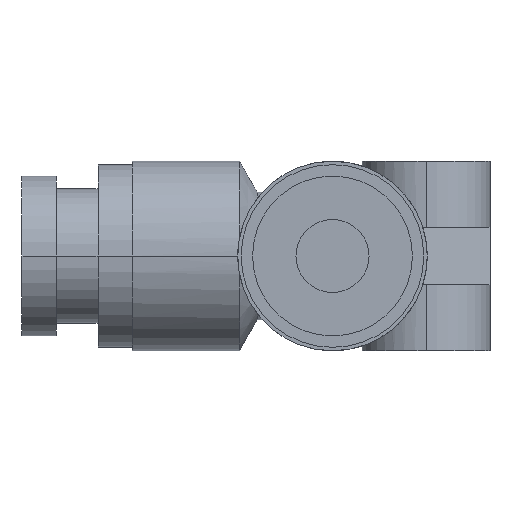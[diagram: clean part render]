
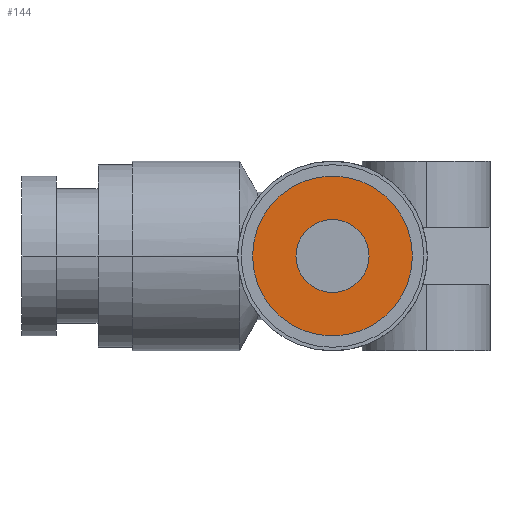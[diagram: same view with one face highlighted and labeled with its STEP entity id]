
A CAD part, left-side view. The second image highlights one B-rep face of the part: STEP entity #144.
In plain terms, the highlighted planar face has unit normal (-1, 0, 0).
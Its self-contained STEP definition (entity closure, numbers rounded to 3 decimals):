
#144 = ADVANCED_FACE( '', ( #297, #298 ), #299, .T. );
#297 = FACE_BOUND( '', #451, .T. );
#298 = FACE_OUTER_BOUND( '', #452, .T. );
#299 = PLANE( '', #453 );
#451 = EDGE_LOOP( '', ( #989, #990 ) );
#452 = EDGE_LOOP( '', ( #991, #992 ) );
#453 = AXIS2_PLACEMENT_3D( '', #993, #994, #995 );
#989 = ORIENTED_EDGE( '', *, *, #1097, .T. );
#990 = ORIENTED_EDGE( '', *, *, #1093, .T. );
#991 = ORIENTED_EDGE( '', *, *, #999, .T. );
#992 = ORIENTED_EDGE( '', *, *, #1161, .T. );
#993 = CARTESIAN_POINT( '', ( -13.6, 1.75, 0. ) );
#994 = DIRECTION( '', ( -1., 0., 0. ) );
#995 = DIRECTION( '', ( 0., 1., 0. ) );
#999 = EDGE_CURVE( '', #1163, #1167, #1169, .T. );
#1093 = EDGE_CURVE( '', #1348, #1345, #1349, .T. );
#1097 = EDGE_CURVE( '', #1345, #1348, #1354, .T. );
#1161 = EDGE_CURVE( '', #1167, #1163, #1433, .T. );
#1163 = VERTEX_POINT( '', #1435 );
#1167 = VERTEX_POINT( '', #1440 );
#1169 = CIRCLE( '', #1443, 3.5 );
#1345 = VERTEX_POINT( '', #1732 );
#1348 = VERTEX_POINT( '', #1736 );
#1349 = CIRCLE( '', #1737, 1.6 );
#1354 = CIRCLE( '', #1743, 1.6 );
#1433 = CIRCLE( '', #1905, 3.5 );
#1435 = CARTESIAN_POINT( '', ( -13.6, 3.5, 0. ) );
#1440 = CARTESIAN_POINT( '', ( -13.6, -3.5, 0. ) );
#1443 = AXIS2_PLACEMENT_3D( '', #1911, #1912, #1913 );
#1732 = CARTESIAN_POINT( '', ( -13.6, 1.6, 0. ) );
#1736 = CARTESIAN_POINT( '', ( -13.6, -1.6, 0. ) );
#1737 = AXIS2_PLACEMENT_3D( '', #2088, #2089, #2090 );
#1743 = AXIS2_PLACEMENT_3D( '', #2098, #2099, #2100 );
#1905 = AXIS2_PLACEMENT_3D( '', #2247, #2248, #2249 );
#1911 = CARTESIAN_POINT( '', ( -13.6, 0., 0. ) );
#1912 = DIRECTION( '', ( -1., 0., 0. ) );
#1913 = DIRECTION( '', ( 0., 1., 0. ) );
#2088 = CARTESIAN_POINT( '', ( -13.6, 0., 0. ) );
#2089 = DIRECTION( '', ( 1., 0., 0. ) );
#2090 = DIRECTION( '', ( 0., 1., 0. ) );
#2098 = CARTESIAN_POINT( '', ( -13.6, 0., 0. ) );
#2099 = DIRECTION( '', ( 1., 0., 0. ) );
#2100 = DIRECTION( '', ( 0., 1., 0. ) );
#2247 = CARTESIAN_POINT( '', ( -13.6, 0., 0. ) );
#2248 = DIRECTION( '', ( -1., 0., 0. ) );
#2249 = DIRECTION( '', ( 0., 1., 0. ) );
